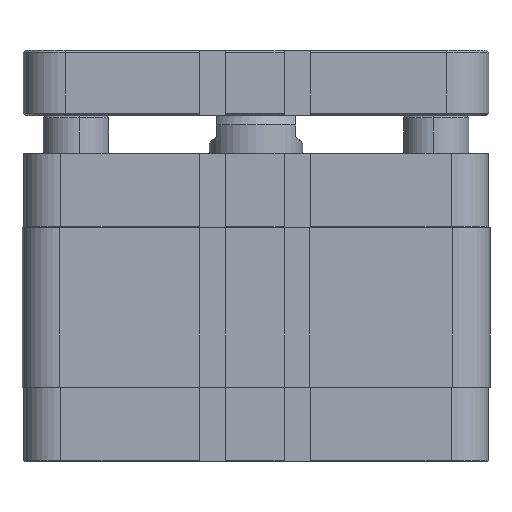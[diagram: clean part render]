
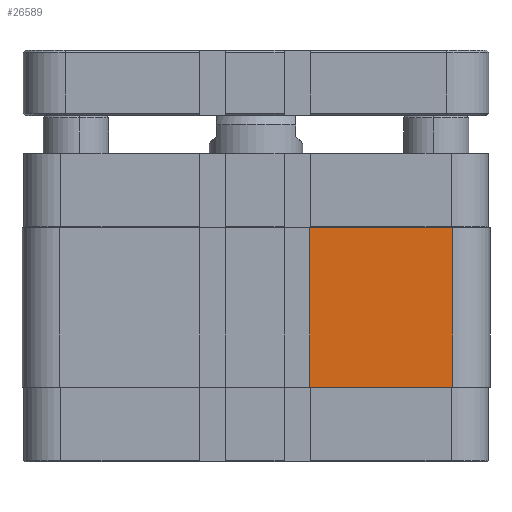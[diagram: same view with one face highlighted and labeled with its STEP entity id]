
A CAD part, left-side view. The second image highlights one B-rep face of the part: STEP entity #26589.
In plain terms, the highlighted planar face has unit normal (-1, 0, 0).
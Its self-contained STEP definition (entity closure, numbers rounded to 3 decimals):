
#1621 = LINE ( 'NONE', #22856, #25227 ) ;
#2211 = PLANE ( 'NONE',  #38968 ) ;
#2766 = CARTESIAN_POINT ( 'NONE',  ( -50., -50., -16. ) ) ;
#3427 = FACE_OUTER_BOUND ( 'NONE', #16090, .T. ) ;
#3800 = LINE ( 'NONE', #37251, #17750 ) ;
#7077 = VECTOR ( 'NONE', #37275, 1000. ) ;
#8367 = DIRECTION ( 'NONE',  ( 1., 0., 0. ) ) ;
#10297 = ORIENTED_EDGE ( 'NONE', *, *, #38933, .T. ) ;
#11361 = LINE ( 'NONE', #2766, #7077 ) ;
#11405 = CARTESIAN_POINT ( 'NONE',  ( -50., -11.5, -16. ) ) ;
#12971 = VERTEX_POINT ( 'NONE', #22555 ) ;
#14821 = CARTESIAN_POINT ( 'NONE',  ( -50., -50., -16. ) ) ;
#16090 = EDGE_LOOP ( 'NONE', ( #26231, #22110, #26869, #10297 ) ) ;
#17750 = VECTOR ( 'NONE', #30762, 1000. ) ;
#19318 = VERTEX_POINT ( 'NONE', #19758 ) ;
#19758 = CARTESIAN_POINT ( 'NONE',  ( -50., -11.5, -50. ) ) ;
#21034 = LINE ( 'NONE', #21200, #30212 ) ;
#21200 = CARTESIAN_POINT ( 'NONE',  ( -50., -11.5, -40. ) ) ;
#21803 = VERTEX_POINT ( 'NONE', #26875 ) ;
#22110 = ORIENTED_EDGE ( 'NONE', *, *, #26285, .F. ) ;
#22486 = DIRECTION ( 'NONE',  ( 0., 1., 0. ) ) ;
#22555 = CARTESIAN_POINT ( 'NONE',  ( -50., -42., -16. ) ) ;
#22856 = CARTESIAN_POINT ( 'NONE',  ( -50., -42., -50. ) ) ;
#25227 = VECTOR ( 'NONE', #22486, 1000. ) ;
#26231 = ORIENTED_EDGE ( 'NONE', *, *, #26232, .F. ) ;
#26232 = EDGE_CURVE ( 'NONE', #30963, #12971, #11361, .T. ) ;
#26285 = EDGE_CURVE ( 'NONE', #19318, #30963, #21034, .T. ) ;
#26589 = ADVANCED_FACE ( 'NONE', ( #3427 ), #2211, .F. ) ;
#26869 = ORIENTED_EDGE ( 'NONE', *, *, #30781, .F. ) ;
#26875 = CARTESIAN_POINT ( 'NONE',  ( -50., -42., -50. ) ) ;
#27260 = DIRECTION ( 'NONE',  ( 0., 0., -1. ) ) ;
#30212 = VECTOR ( 'NONE', #30929, 1000. ) ;
#30762 = DIRECTION ( 'NONE',  ( 0., 0., 1. ) ) ;
#30781 = EDGE_CURVE ( 'NONE', #21803, #19318, #1621, .T. ) ;
#30929 = DIRECTION ( 'NONE',  ( 0., 0., 1. ) ) ;
#30963 = VERTEX_POINT ( 'NONE', #11405 ) ;
#37251 = CARTESIAN_POINT ( 'NONE',  ( -50., -42., -16. ) ) ;
#37275 = DIRECTION ( 'NONE',  ( 0., -1., 0. ) ) ;
#38933 = EDGE_CURVE ( 'NONE', #21803, #12971, #3800, .T. ) ;
#38968 = AXIS2_PLACEMENT_3D ( 'NONE', #14821, #8367, #27260 ) ;
